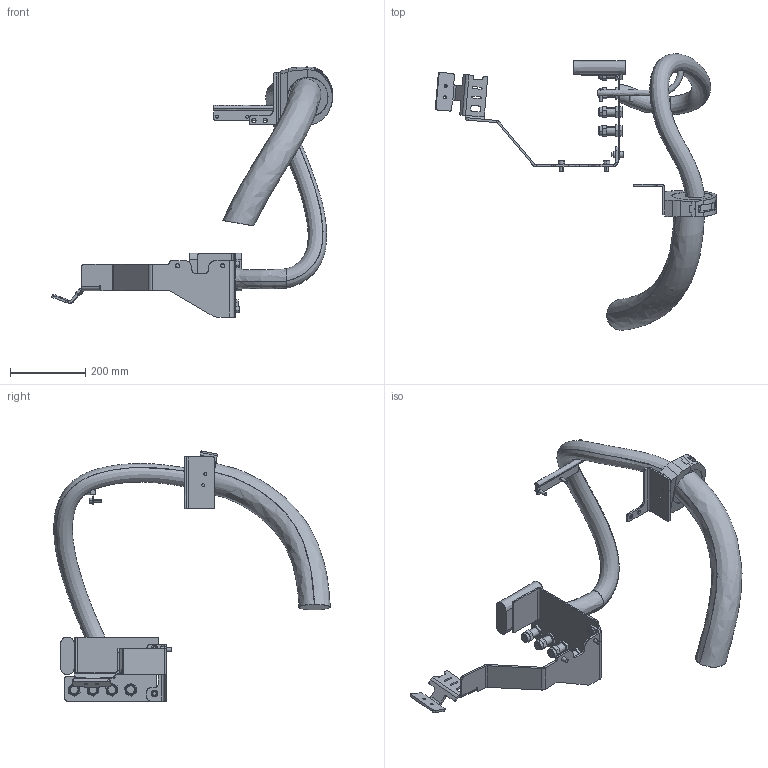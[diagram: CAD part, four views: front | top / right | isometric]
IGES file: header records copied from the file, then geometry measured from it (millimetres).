
Start section: SolidWorks IGES file using analytic representation for surfaces
Global section: file name: C:\Users\seamsto1\Desktop\Lättvikt\IRB6710-LID-SW_175kg-265_OC_00_SW_J\IRB6710-LID-SW_175kg-265_OC_00_IGES_J\IRB6710-LID-SW_175kg-265_OC_00_LINK03a_CABLE.IGS; native system: SolidWorks 2020; preprocessor: SolidWorks 2020; author: SEAMSTO1; date: 230510.130547; units: millimetre
Bounding box: 747.03 x 733.94 x 663.9 mm (x, y, z)
Surface area: 681232.7 mm2 (no closed solid volume)
Topology: 0 solids, 0 shells, 581 faces, 8580 edges, 8580 vertices
Faces by surface type: bspline 363, revolution 218
